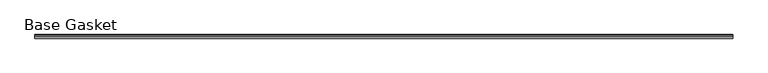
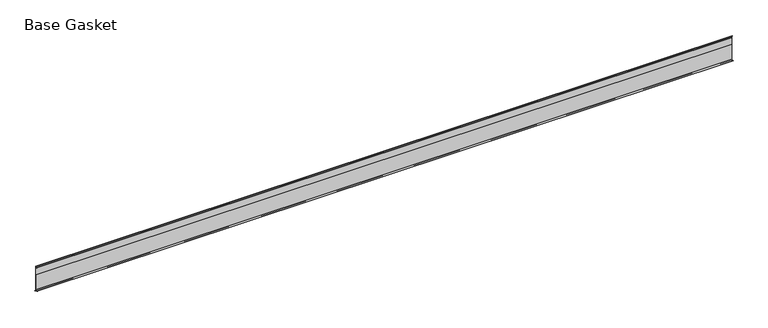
"""IFC4 building model written with IfcOpenShell, lengths in millimetres: furniture geometry, Gasket-Teknion-FHGB-AI_Healthcare-R2021 : Base Gasket."""

from ifc_helpers import new_model, si_unit, frame, origin, place, context, project, spatial, polyline, outline, extrude, source, transform, mapped, element, save


def base_gasket_50cfec08(model_context):
    return source(origin(), model_context, "Body", "SweptSolid", [
        extrude(outline(polyline([(3.7283812, 98.4568417), (3.7283812, 4.3498477), (7.4222115, 0.6560174), (7.8482342, 0.0), (6.8281054, 0.3520979), (2.2043812, 4.3498477), (2.1334222, 6.3818476), (-6.2405171, 6.3818476), (-6.2405171, 7.9398773), (2.2043812, 7.9398773), (2.2043812, 71.4693447), (1.4106313, 71.4693447), (1.4106313, 96.8693477), (2.2043812, 96.8693477), (2.2043812, 98.4568417), (0.6755308, 104.4162708), (0.6755308, 105.2002997), (1.1891543, 104.587663), (3.7283812, 98.4568417)])), frame((-1527.8982117, 0.0, 0.0), z_axis=(1.0, 0.0, 0.0), x_axis=(0.0, 1.0, 0.0)), (0.0, 0.0, 1.0), 2722.1240991),
    ])


if __name__ == "__main__":
    model = new_model("IFC4")
    model_context = context("Model", 3, world=origin())
    ifc_project = project(units=[si_unit("LENGTHUNIT", "METRE", prefix="MILLI")], contexts=[model_context])
    site = spatial("IfcSite", under=ifc_project)
    building = spatial("IfcBuilding", under=site)
    placement = place(None, origin())
    base_gasket_shape = base_gasket_50cfec08(model_context)
    element("IfcFurniture", 1, ObjectType="Gasket-Teknion-FHGB-AI_Healthcare-R2021 : Base Gasket", at=placement, inside=building, context=model_context, shape_type="MappedRepresentation", body=[
        mapped(base_gasket_shape, transform((0.0, 0.0, 0.0), x_axis=(1.0, 0.0, 0.0), y_axis=(0.0, 1.0, 0.0), z_axis=(0.0, 0.0, 1.0))),
    ])
    save(model, "model.ifc")
